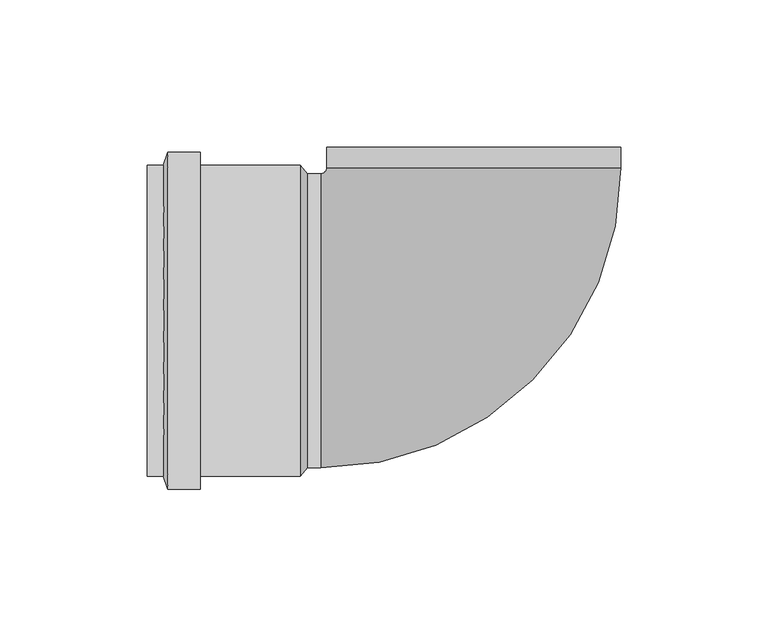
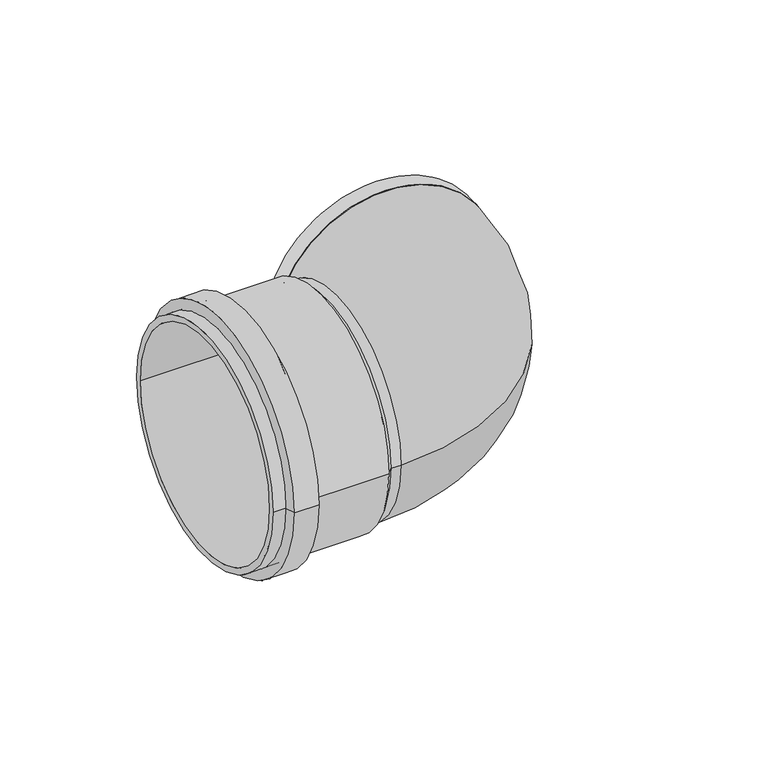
"""IFC4 building model written with IfcOpenShell, lengths in millimetres: pipe fitting geometry, Joelho 45_90 - Serie Normal - Esgoto : Joelho 45_90 - Serie Normal - Esgoto."""

from ifc_helpers import new_model, si_unit, point, frame, origin, origin_2d, place, context, project, spatial, polyline, circle_curve, ellipse_curve, trimmed, segment, composite_curve, outline, extrude, source, transform, mapped, element, save
from ifc_brep_helpers import plane_surface, cylinder_surface, revolved_surface, advanced_brep


def pipe_fitting_5686e5ae(model_context):
    return source(origin(), model_context, "Body", "SolidModel", [
        extrude(outline(composite_curve([segment(trimmed(circle_curve(origin_2d(), 50.0), [point((0.0, 50.0))], [point((0.0, -50.0))], False, "CARTESIAN"), True, "CONTINUOUS"), segment(trimmed(circle_curve(origin_2d(), 50.0), [point((0.0, -50.0))], [point((0.0, 50.0))], False, "CARTESIAN"), True, "CONTINUOUS")], self_intersect=False)), frame((0.0061177, 51.9938816, 0.0), z_axis=(0.00011766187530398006, 0.9999999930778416, 0.0), x_axis=(0.0, 0.0, 1.0)), (0.0, 0.0, 1.0), 7.0),
        advanced_brep(
        [(-110.9938819, 52.85, 0.0), (-110.9938819, -52.85, 0.0), (-110.9938819, 50.0, 0.0), (-110.9938819, -50.0, 0.0), (-58.9938819, -50.0, 0.0), (-58.9938819, 50.0, 0.0), (-58.9938819, -52.85, 0.0), (-58.9938819, 52.85, 0.0), (-56.4938819, -50.0, 0.0), (-56.4938819, 50.0, 0.0), (-51.9938819, 50.0, 0.0), (-51.9938819, -50.0, 0.0), (-51.9938819, 0.0, 50.0), (-51.9938819, 0.0, -50.0), (50.0061174, 51.9879985, 0.0), (-49.993882, 51.9997647, 0.0)],
        [
            (0, 1, circle_curve(frame((-110.9938819, 0.0, 0.0), z_axis=(-1.0, 0.0, 0.0), x_axis=(0.0, -1.0, 0.0)), 52.85)),
            (1, 0, circle_curve(frame((-110.9938819, 0.0, 0.0), z_axis=(-1.0, 0.0, 0.0), x_axis=(0.0, -1.0, 0.0)), 52.85)),
            (2, 3, circle_curve(frame((-110.9938819, 0.0, 0.0), z_axis=(1.0, 0.0, 0.0), x_axis=(0.0, -1.0, 0.0)), 50.0)),
            (3, 2, circle_curve(frame((-110.9938819, 0.0, 0.0), z_axis=(1.0, 0.0, 0.0), x_axis=(0.0, -1.0, 0.0)), 50.0)),
            (3, 4),
            (4, 5, circle_curve(frame((-58.9938819, 0.0, 0.0), z_axis=(1.0, 0.0, 0.0), x_axis=(0.0, -1.0, 0.0)), 50.0)),
            (5, 2),
            (5, 4, circle_curve(frame((-58.9938819, 0.0, 0.0), z_axis=(1.0, 0.0, 0.0), x_axis=(0.0, -1.0, 0.0)), 50.0)),
            (1, 6),
            (6, 7, circle_curve(frame((-58.9938819, 0.0, 0.0), z_axis=(-1.0, 0.0, 0.0), x_axis=(0.0, -1.0, 0.0)), 52.85)),
            (7, 0),
            (7, 6, circle_curve(frame((-58.9938819, 0.0, 0.0), z_axis=(-1.0, 0.0, 0.0), x_axis=(0.0, -1.0, 0.0)), 52.85)),
            (8, 6),
            (7, 9),
            (9, 8, circle_curve(frame((-56.4938819, 0.0, 0.0), z_axis=(-1.0, 0.0, 0.0), x_axis=(0.0, 1.0, 0.0)), 50.0)),
            (8, 9, circle_curve(frame((-56.4938819, 0.0, 0.0), z_axis=(-1.0, 0.0, 0.0), x_axis=(0.0, -1.0, 0.0)), 50.0)),
            (10, 9),
            (8, 11),
            (11, 12, circle_curve(frame((-51.9938819, 0.0, 0.0), z_axis=(-1.0, 0.0, 0.0), x_axis=(0.0, -1.0, 0.0)), 50.0)),
            (12, 10, circle_curve(frame((-51.9938819, 0.0, 0.0), z_axis=(-1.0, 0.0, 0.0), x_axis=(0.0, -1.0, 0.0)), 50.0)),
            (10, 13, circle_curve(frame((-51.9938819, 0.0, 0.0), z_axis=(-1.0, 0.0, 0.0), x_axis=(0.0, -1.0, 0.0)), 50.0)),
            (13, 11, circle_curve(frame((-51.9938819, 0.0, 0.0), z_axis=(-1.0, 0.0, 0.0), x_axis=(0.0, -1.0, 0.0)), 50.0)),
            (14, 15, circle_curve(frame((0.0061177, 51.9938816, 0.0), z_axis=(0.00011766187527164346, 0.9999999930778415, 0.0), x_axis=(-0.9999999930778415, 0.00011766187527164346, 0.0)), 50.0)),
            (15, 14, circle_curve(frame((0.0061177, 51.9938816, 0.0), z_axis=(0.00011766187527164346, 0.9999999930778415, 0.0), x_axis=(-0.9999999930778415, 0.00011766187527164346, 0.0)), 50.0)),
            (15, 10, circle_curve(frame((-51.9938819, 52.0, 0.0), z_axis=(0.0, 0.0, -1.0), x_axis=(0.0, -1.0, 0.0)), 2.0)),
            (11, 14, circle_curve(frame((-51.9938819, 52.0, 0.0), z_axis=(0.0, 0.0, 1.0), x_axis=(0.0, -1.0, 0.0)), 102.0)),
        ],
        [
            plane_surface(frame((-110.9938819, 0.0, 0.0), z_axis=(-1.0, 0.0, 0.0), x_axis=(0.0, 0.0, 1.0))),
            revolved_surface(polyline([(-110.9938819, -50.0, 0.0), (-58.9938819, -50.0, 0.0)]), (-58.9938819, 0.0, 0.0), (-1.0, 0.0, 0.0)),
            cylinder_surface(frame((-58.9938819, 0.0, 0.0), z_axis=(1.0, 0.0, 0.0), x_axis=(0.0, -1.0, 0.0)), 52.85),
            plane_surface(frame((-58.9938819, 0.0, 0.0), z_axis=(-1.0, 0.0, 0.0), x_axis=(0.0, 0.0, -1.0))),
            revolved_surface(polyline([(-56.4938819, -49.99999999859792, 0.0), (-58.9938819, -52.85, 0.0)]), (-12.6342328, 0.0, 0.0), (-1.0, 0.0, 0.0)),
            cylinder_surface(frame((-51.9938819, 0.0, 0.0), z_axis=(1.0, 0.0, 0.0), x_axis=(0.0, -1.0, 0.0)), 50.0),
            plane_surface(frame((0.0061177, 51.9938816, 0.0), z_axis=(0.00011766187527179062, 0.9999999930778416, 0.0), x_axis=(0.0, 0.0, 1.0))),
            revolved_surface(trimmed(ellipse_curve(frame((-51.9938819, 0.0, 0.0), z_axis=(-1.0, 0.0, 0.0), x_axis=(0.0, 1.0, 0.0)), 50.0, 50.0), [point((-51.9938819, -50.0, 0.0))], [point((-51.9938819, 50.0, 0.0))], True, "CARTESIAN"), (-51.9938819, 52.0, 0.0), (0.0, 0.0, 1.0)),
            revolved_surface(trimmed(ellipse_curve(frame((-51.9938819, 0.0, 0.0), z_axis=(-1.0, 0.0, 0.0), x_axis=(0.0, 1.0, 0.0)), 50.0, 50.0), [point((-51.9938819, 50.0, 0.0))], [point((-51.9938819, -50.0, 0.0))], True, "CARTESIAN"), (-51.9938819, 52.0, 0.0), (0.0, 0.0, 1.0)),
        ],
        [
            (0, [[1, 2], [3, 4]]),
            (1, [[-4, 5, 6, 7]]),
            (1, [[-3, -7, 8, -5]]),
            (2, [[-2, 9, 10, 11]]),
            (2, [[-1, -11, 12, -9]]),
            (3, [[-6, -8]]),
            (4, [[13, -12, 14, 15]]),
            (4, [[-13, 16, -14, -10]]),
            (5, [[17, -16, 18, 19, 20]]),
            (5, [[-17, 21, 22, -18, -15]]),
            (6, [[23, 24]]),
            (7, [[-24, 25, -20, -19, 26]]),
            (8, [[-23, -26, -22, -21, -25]]),
        ],
    ),
        advanced_brep(
        [(-92.9938819, 57.3, 0.0), (-92.9938819, -57.3, 0.0), (-92.9938819, 52.85, 0.0), (-92.9938819, -52.85, 0.0), (-103.9938819, 52.85, 0.0), (-103.9938819, -52.85, 0.0), (-103.9938819, 57.3, 0.0), (-103.9938819, -57.3, 0.0), (-105.4938819, 52.85, 0.0), (-105.4938819, -52.85, 0.0)],
        [
            (0, 1, circle_curve(frame((-92.9938819, 0.0, 0.0), z_axis=(1.0, 0.0, 0.0), x_axis=(0.0, -1.0, 0.0)), 57.3)),
            (1, 0, circle_curve(frame((-92.9938819, 0.0, 0.0), z_axis=(1.0, 0.0, 0.0), x_axis=(0.0, -1.0, 0.0)), 57.3)),
            (2, 3, circle_curve(frame((-92.9938819, 0.0, 0.0), z_axis=(-1.0, 0.0, 0.0), x_axis=(0.0, -1.0, 0.0)), 52.85)),
            (3, 2, circle_curve(frame((-92.9938819, 0.0, 0.0), z_axis=(-1.0, 0.0, 0.0), x_axis=(0.0, -1.0, 0.0)), 52.85)),
            (2, 4),
            (4, 5, circle_curve(frame((-103.9938819, 0.0, 0.0), z_axis=(-1.0, 0.0, 0.0), x_axis=(0.0, -1.0, 0.0)), 52.85)),
            (5, 3),
            (5, 4, circle_curve(frame((-103.9938819, 0.0, 0.0), z_axis=(-1.0, 0.0, 0.0), x_axis=(0.0, -1.0, 0.0)), 52.85)),
            (0, 6),
            (6, 7, circle_curve(frame((-103.9938819, 0.0, 0.0), z_axis=(1.0, 0.0, 0.0), x_axis=(0.0, -1.0, 0.0)), 57.3)),
            (7, 1),
            (7, 6, circle_curve(frame((-103.9938819, 0.0, 0.0), z_axis=(1.0, 0.0, 0.0), x_axis=(0.0, -1.0, 0.0)), 57.3)),
            (4, 8),
            (8, 9, circle_curve(frame((-105.4938819, 0.0, 0.0), z_axis=(-1.0, 0.0, 0.0), x_axis=(0.0, -1.0, 0.0)), 52.85)),
            (9, 5),
            (9, 8, circle_curve(frame((-105.4938819, 0.0, 0.0), z_axis=(-1.0, 0.0, 0.0), x_axis=(0.0, -1.0, 0.0)), 52.85)),
            (7, 9),
            (8, 6),
        ],
        [
            plane_surface(frame((-92.9938819, 0.0, 0.0), z_axis=(1.0, 0.0, 0.0), x_axis=(0.0, 0.0, 1.0))),
            revolved_surface(polyline([(-103.9938819, -52.85, 0.0), (-92.9938819, -52.85, 0.0)]), (-92.9938819, 0.0, 0.0), (-1.0, 0.0, 0.0)),
            cylinder_surface(frame((-92.9938819, 0.0, 0.0), z_axis=(1.0, 0.0, 0.0), x_axis=(0.0, -1.0, 0.0)), 57.3),
            revolved_surface(polyline([(-103.9938819, -52.85, 0.0), (-105.4938819, -52.85, 0.0)]), (-103.9938819, 0.0, 0.0), (1.0, 0.0, 0.0)),
            revolved_surface(polyline([(-105.4938819, -52.85000001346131, 0.0), (-103.9938819, -57.3, 0.0)]), (-123.3084887, 0.0, 0.0), (1.0, 0.0, 0.0)),
        ],
        [
            (0, [[1, 2], [3, 4]]),
            (1, [[-3, 5, 6, 7]]),
            (1, [[-4, -7, 8, -5]]),
            (2, [[-1, 9, 10, 11]]),
            (2, [[-2, -11, 12, -9]]),
            (3, [[13, 14, 15, -6]]),
            (3, [[-13, -8, -15, 16]]),
            (4, [[17, -14, 18, -12]]),
            (4, [[-17, -10, -18, -16]]),
        ],
    ),
    ])


if __name__ == "__main__":
    model = new_model("IFC4")
    model_context = context("Model", 3, world=origin())
    ifc_project = project(units=[si_unit("LENGTHUNIT", "METRE", prefix="MILLI")], contexts=[model_context])
    site = spatial("IfcSite", under=ifc_project)
    building = spatial("IfcBuilding", under=site)
    placement = place(None, origin())
    pipe_fitting_shape = pipe_fitting_5686e5ae(model_context)
    element("IfcPipeFitting", 1, ObjectType="Joelho 45_90 - Serie Normal - Esgoto : Joelho 45_90 - Serie Normal - Esgoto", at=placement, inside=building, context=model_context, shape_type="MappedRepresentation", body=[
        mapped(pipe_fitting_shape, transform((0.0, 0.0, 0.0), x_axis=(1.0, 0.0, 0.0), y_axis=(0.0, 1.0, 0.0), z_axis=(0.0, 0.0, 1.0))),
    ])
    save(model, "model.ifc")
